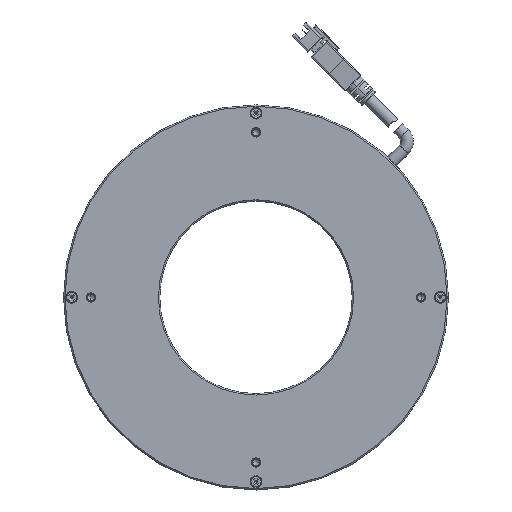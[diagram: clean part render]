
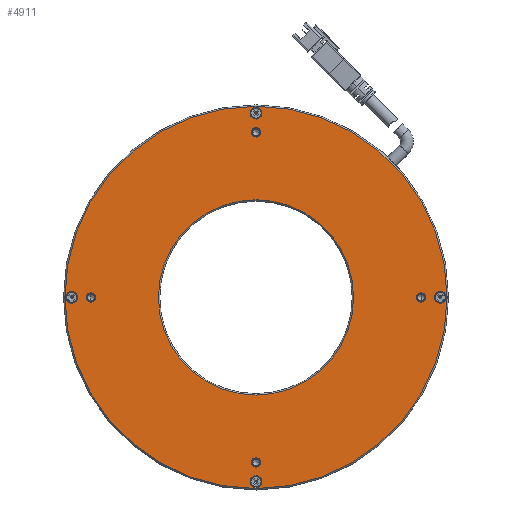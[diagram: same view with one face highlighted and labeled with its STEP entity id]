
A CAD part, top view. The second image highlights one B-rep face of the part: STEP entity #4911.
In plain terms, the highlighted planar face has unit normal (0, 0, 1).
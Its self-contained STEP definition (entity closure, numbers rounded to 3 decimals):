
#283=CARTESIAN_POINT('',(0.,0.,2.));
#284=DIRECTION('',(0.,0.,-1.));
#285=DIRECTION('',(1.,0.,0.));
#286=AXIS2_PLACEMENT_3D('',#283,#284,#285);
#288=CARTESIAN_POINT('',(0.,0.,2.));
#289=DIRECTION('',(0.,0.,-1.));
#290=DIRECTION('',(-1.,0.,0.));
#291=AXIS2_PLACEMENT_3D('',#288,#289,#290);
#293=CARTESIAN_POINT('',(0.,60.,2.));
#294=DIRECTION('',(0.,0.,-1.));
#295=DIRECTION('',(-1.,0.,0.));
#296=AXIS2_PLACEMENT_3D('',#293,#294,#295);
#298=CARTESIAN_POINT('',(0.,60.,2.));
#299=DIRECTION('',(0.,0.,-1.));
#300=DIRECTION('',(1.,0.,0.));
#301=AXIS2_PLACEMENT_3D('',#298,#299,#300);
#303=CARTESIAN_POINT('',(-60.,0.,2.));
#304=DIRECTION('',(0.,0.,-1.));
#305=DIRECTION('',(0.,-1.,0.));
#306=AXIS2_PLACEMENT_3D('',#303,#304,#305);
#308=CARTESIAN_POINT('',(-60.,0.,2.));
#309=DIRECTION('',(0.,0.,-1.));
#310=DIRECTION('',(0.,1.,0.));
#311=AXIS2_PLACEMENT_3D('',#308,#309,#310);
#313=CARTESIAN_POINT('',(0.,-60.,2.));
#314=DIRECTION('',(0.,0.,-1.));
#315=DIRECTION('',(1.,0.,0.));
#316=AXIS2_PLACEMENT_3D('',#313,#314,#315);
#318=CARTESIAN_POINT('',(0.,-60.,2.));
#319=DIRECTION('',(0.,0.,-1.));
#320=DIRECTION('',(-1.,0.,0.));
#321=AXIS2_PLACEMENT_3D('',#318,#319,#320);
#323=CARTESIAN_POINT('',(60.,0.,2.));
#324=DIRECTION('',(0.,0.,-1.));
#325=DIRECTION('',(0.,1.,0.));
#326=AXIS2_PLACEMENT_3D('',#323,#324,#325);
#328=CARTESIAN_POINT('',(60.,0.,2.));
#329=DIRECTION('',(0.,0.,-1.));
#330=DIRECTION('',(0.,-1.,0.));
#331=AXIS2_PLACEMENT_3D('',#328,#329,#330);
#333=CARTESIAN_POINT('',(67.,0.,2.));
#334=DIRECTION('',(0.,0.,-1.));
#335=DIRECTION('',(-1.,0.,0.));
#336=AXIS2_PLACEMENT_3D('',#333,#334,#335);
#338=CARTESIAN_POINT('',(67.,0.,2.));
#339=DIRECTION('',(0.,0.,-1.));
#340=DIRECTION('',(1.,0.,0.));
#341=AXIS2_PLACEMENT_3D('',#338,#339,#340);
#343=CARTESIAN_POINT('',(0.,67.,2.));
#344=DIRECTION('',(0.,0.,-1.));
#345=DIRECTION('',(0.,-1.,0.));
#346=AXIS2_PLACEMENT_3D('',#343,#344,#345);
#348=CARTESIAN_POINT('',(0.,67.,2.));
#349=DIRECTION('',(0.,0.,-1.));
#350=DIRECTION('',(0.,1.,0.));
#351=AXIS2_PLACEMENT_3D('',#348,#349,#350);
#353=CARTESIAN_POINT('',(-67.,0.,2.));
#354=DIRECTION('',(0.,0.,-1.));
#355=DIRECTION('',(1.,0.,0.));
#356=AXIS2_PLACEMENT_3D('',#353,#354,#355);
#358=CARTESIAN_POINT('',(-67.,0.,2.));
#359=DIRECTION('',(0.,0.,-1.));
#360=DIRECTION('',(-1.,0.,0.));
#361=AXIS2_PLACEMENT_3D('',#358,#359,#360);
#363=CARTESIAN_POINT('',(0.,-67.,2.));
#364=DIRECTION('',(0.,0.,-1.));
#365=DIRECTION('',(0.,1.,0.));
#366=AXIS2_PLACEMENT_3D('',#363,#364,#365);
#368=CARTESIAN_POINT('',(0.,-67.,2.));
#369=DIRECTION('',(0.,0.,-1.));
#370=DIRECTION('',(0.,-1.,0.));
#371=AXIS2_PLACEMENT_3D('',#368,#369,#370);
#373=CARTESIAN_POINT('',(0.,0.,2.));
#374=DIRECTION('',(0.,0.,1.));
#375=DIRECTION('',(-1.,0.,0.));
#376=AXIS2_PLACEMENT_3D('',#373,#374,#375);
#378=CARTESIAN_POINT('',(0.,0.,2.));
#379=DIRECTION('',(0.,0.,1.));
#380=DIRECTION('',(1.,0.,0.));
#381=AXIS2_PLACEMENT_3D('',#378,#379,#380);
#3540=CARTESIAN_POINT('',(69.5,0.,2.));
#3541=CARTESIAN_POINT('',(-69.5,0.,2.));
#3542=VERTEX_POINT('',#3540);
#3543=VERTEX_POINT('',#3541);
#3544=CARTESIAN_POINT('',(0.,-69.15,2.));
#3545=CARTESIAN_POINT('',(0.,-64.85,2.));
#3546=VERTEX_POINT('',#3544);
#3547=VERTEX_POINT('',#3545);
#3548=CARTESIAN_POINT('',(-69.15,0.,2.));
#3549=CARTESIAN_POINT('',(-64.85,0.,2.));
#3550=VERTEX_POINT('',#3548);
#3551=VERTEX_POINT('',#3549);
#3552=CARTESIAN_POINT('',(0.,69.15,2.));
#3553=CARTESIAN_POINT('',(0.,64.85,2.));
#3554=VERTEX_POINT('',#3552);
#3555=VERTEX_POINT('',#3553);
#3556=CARTESIAN_POINT('',(69.15,0.,2.));
#3557=CARTESIAN_POINT('',(64.85,0.,2.));
#3558=VERTEX_POINT('',#3556);
#3559=VERTEX_POINT('',#3557);
#3560=CARTESIAN_POINT('',(60.,-1.7,2.));
#3561=CARTESIAN_POINT('',(60.,1.7,2.));
#3562=VERTEX_POINT('',#3560);
#3563=VERTEX_POINT('',#3561);
#3564=CARTESIAN_POINT('',(-1.7,-60.,2.));
#3565=CARTESIAN_POINT('',(1.7,-60.,2.));
#3566=VERTEX_POINT('',#3564);
#3567=VERTEX_POINT('',#3565);
#3568=CARTESIAN_POINT('',(-60.,1.7,2.));
#3569=CARTESIAN_POINT('',(-60.,-1.7,2.));
#3570=VERTEX_POINT('',#3568);
#3571=VERTEX_POINT('',#3569);
#3572=CARTESIAN_POINT('',(1.7,60.,2.));
#3573=CARTESIAN_POINT('',(-1.7,60.,2.));
#3574=VERTEX_POINT('',#3572);
#3575=VERTEX_POINT('',#3573);
#3576=CARTESIAN_POINT('',(-35.5,0.,2.));
#3577=CARTESIAN_POINT('',(35.5,0.,2.));
#3578=VERTEX_POINT('',#3576);
#3579=VERTEX_POINT('',#3577);
#4848=CARTESIAN_POINT('',(0.,0.,2.));
#4849=DIRECTION('',(0.,0.,-1.));
#4850=DIRECTION('',(-1.,0.,0.));
#4851=AXIS2_PLACEMENT_3D('',#4848,#4849,#4850);
#4852=PLANE('',#4851);
#4854=ORIENTED_EDGE('',*,*,#4853,.F.);
#4856=ORIENTED_EDGE('',*,*,#4855,.F.);
#4857=EDGE_LOOP('',(#4854,#4856));
#4858=FACE_OUTER_BOUND('',#4857,.F.);
#4860=ORIENTED_EDGE('',*,*,#4859,.F.);
#4862=ORIENTED_EDGE('',*,*,#4861,.F.);
#4863=EDGE_LOOP('',(#4860,#4862));
#4864=FACE_BOUND('',#4863,.F.);
#4866=ORIENTED_EDGE('',*,*,#4865,.F.);
#4868=ORIENTED_EDGE('',*,*,#4867,.F.);
#4869=EDGE_LOOP('',(#4866,#4868));
#4870=FACE_BOUND('',#4869,.F.);
#4872=ORIENTED_EDGE('',*,*,#4871,.F.);
#4874=ORIENTED_EDGE('',*,*,#4873,.F.);
#4875=EDGE_LOOP('',(#4872,#4874));
#4876=FACE_BOUND('',#4875,.F.);
#4878=ORIENTED_EDGE('',*,*,#4877,.F.);
#4880=ORIENTED_EDGE('',*,*,#4879,.F.);
#4881=EDGE_LOOP('',(#4878,#4880));
#4882=FACE_BOUND('',#4881,.F.);
#4884=ORIENTED_EDGE('',*,*,#4883,.F.);
#4886=ORIENTED_EDGE('',*,*,#4885,.F.);
#4887=EDGE_LOOP('',(#4884,#4886));
#4888=FACE_BOUND('',#4887,.F.);
#4890=ORIENTED_EDGE('',*,*,#4889,.F.);
#4892=ORIENTED_EDGE('',*,*,#4891,.F.);
#4893=EDGE_LOOP('',(#4890,#4892));
#4894=FACE_BOUND('',#4893,.F.);
#4896=ORIENTED_EDGE('',*,*,#4895,.F.);
#4898=ORIENTED_EDGE('',*,*,#4897,.F.);
#4899=EDGE_LOOP('',(#4896,#4898));
#4900=FACE_BOUND('',#4899,.F.);
#4901=ORIENTED_EDGE('',*,*,#4813,.F.);
#4902=ORIENTED_EDGE('',*,*,#4841,.F.);
#4903=EDGE_LOOP('',(#4901,#4902));
#4904=FACE_BOUND('',#4903,.F.);
#4906=ORIENTED_EDGE('',*,*,#4905,.F.);
#4908=ORIENTED_EDGE('',*,*,#4907,.F.);
#4909=EDGE_LOOP('',(#4906,#4908));
#4910=FACE_BOUND('',#4909,.F.);
#4911=ADVANCED_FACE('',(#4858,#4864,#4870,#4876,#4882,#4888,#4894,#4900,#4904,
#4910),#4852,.F.);
#287=CIRCLE('',#286,35.5);
#292=CIRCLE('',#291,35.5);
#297=CIRCLE('',#296,1.7);
#302=CIRCLE('',#301,1.7);
#307=CIRCLE('',#306,1.7);
#312=CIRCLE('',#311,1.7);
#317=CIRCLE('',#316,1.7);
#322=CIRCLE('',#321,1.7);
#327=CIRCLE('',#326,1.7);
#332=CIRCLE('',#331,1.7);
#337=CIRCLE('',#336,2.15);
#342=CIRCLE('',#341,2.15);
#347=CIRCLE('',#346,2.15);
#352=CIRCLE('',#351,2.15);
#357=CIRCLE('',#356,2.15);
#362=CIRCLE('',#361,2.15);
#367=CIRCLE('',#366,2.15);
#372=CIRCLE('',#371,2.15);
#377=CIRCLE('',#376,69.5);
#382=CIRCLE('',#381,69.5);
#4813=EDGE_CURVE('',#3547,#3546,#367,.T.);
#4841=EDGE_CURVE('',#3546,#3547,#372,.T.);
#4853=EDGE_CURVE('',#3543,#3542,#377,.T.);
#4855=EDGE_CURVE('',#3542,#3543,#382,.T.);
#4859=EDGE_CURVE('',#3575,#3574,#297,.T.);
#4861=EDGE_CURVE('',#3574,#3575,#302,.T.);
#4865=EDGE_CURVE('',#3571,#3570,#307,.T.);
#4867=EDGE_CURVE('',#3570,#3571,#312,.T.);
#4871=EDGE_CURVE('',#3567,#3566,#317,.T.);
#4873=EDGE_CURVE('',#3566,#3567,#322,.T.);
#4877=EDGE_CURVE('',#3563,#3562,#327,.T.);
#4879=EDGE_CURVE('',#3562,#3563,#332,.T.);
#4883=EDGE_CURVE('',#3559,#3558,#337,.T.);
#4885=EDGE_CURVE('',#3558,#3559,#342,.T.);
#4889=EDGE_CURVE('',#3555,#3554,#347,.T.);
#4891=EDGE_CURVE('',#3554,#3555,#352,.T.);
#4895=EDGE_CURVE('',#3551,#3550,#357,.T.);
#4897=EDGE_CURVE('',#3550,#3551,#362,.T.);
#4905=EDGE_CURVE('',#3579,#3578,#287,.T.);
#4907=EDGE_CURVE('',#3578,#3579,#292,.T.);
